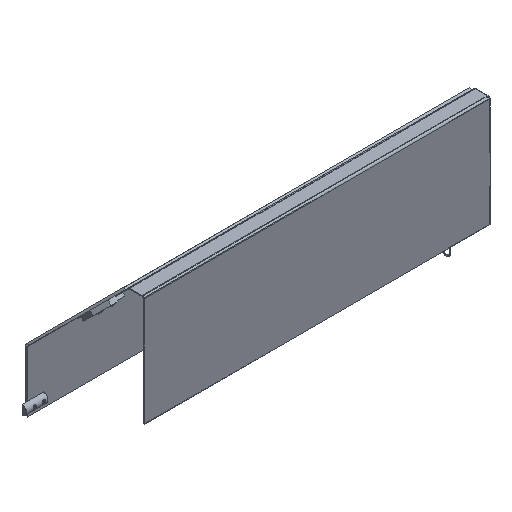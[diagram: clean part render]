
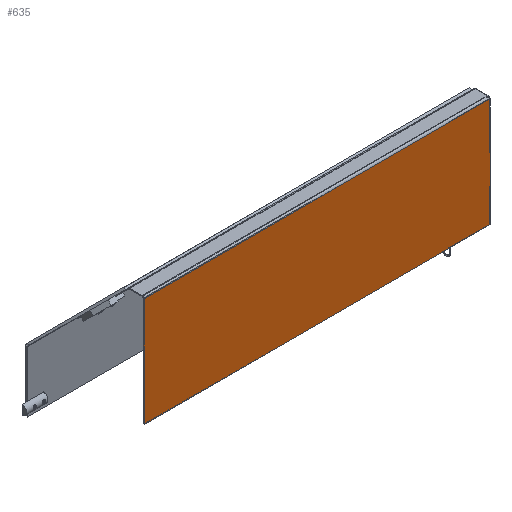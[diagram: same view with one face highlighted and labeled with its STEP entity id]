
A CAD part, isometric view. The second image highlights one B-rep face of the part: STEP entity #635.
In plain terms, the highlighted planar face has unit normal (0, -1, 0).
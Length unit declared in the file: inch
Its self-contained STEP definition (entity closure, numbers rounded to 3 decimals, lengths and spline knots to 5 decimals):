
#202=DIRECTION('',(0.,0.,1.));
#203=VECTOR('',#202,5.8922);
#204=CARTESIAN_POINT('',(9.355,-0.0478,-5.9522));
#205=LINE('',#204,#203);
#218=DIRECTION('',(0.,0.,1.));
#219=VECTOR('',#218,5.8922);
#220=CARTESIAN_POINT('',(-9.355,-0.0478,-5.9522));
#221=LINE('',#220,#219);
#222=DIRECTION('',(-1.,0.,0.));
#223=VECTOR('',#222,18.71);
#224=CARTESIAN_POINT('',(9.355,-0.0478,-5.9522));
#225=LINE('',#224,#223);
#230=DIRECTION('',(-1.,0.,0.));
#231=VECTOR('',#230,18.71);
#232=CARTESIAN_POINT('',(9.355,-0.0478,-0.06));
#233=LINE('',#232,#231);
#262=CARTESIAN_POINT('',(9.355,-0.0478,-5.9522));
#263=CARTESIAN_POINT('',(9.355,-0.0478,-0.06));
#264=VERTEX_POINT('',#262);
#265=VERTEX_POINT('',#263);
#272=CARTESIAN_POINT('',(-9.355,-0.0478,-5.9522));
#273=CARTESIAN_POINT('',(-9.355,-0.0478,-0.06));
#274=VERTEX_POINT('',#272);
#275=VERTEX_POINT('',#273);
#622=CARTESIAN_POINT('',(9.355,-0.0478,-5.9522));
#623=DIRECTION('',(0.,1.,0.));
#624=DIRECTION('',(0.,0.,1.));
#625=AXIS2_PLACEMENT_3D('',#622,#623,#624);
#626=PLANE('',#625);
#627=ORIENTED_EDGE('',*,*,#588,.F.);
#629=ORIENTED_EDGE('',*,*,#628,.T.);
#630=ORIENTED_EDGE('',*,*,#615,.T.);
#632=ORIENTED_EDGE('',*,*,#631,.F.);
#633=EDGE_LOOP('',(#627,#629,#630,#632));
#634=FACE_OUTER_BOUND('',#633,.F.);
#588=EDGE_CURVE('',#264,#265,#205,.T.);
#615=EDGE_CURVE('',#274,#275,#221,.T.);
#628=EDGE_CURVE('',#264,#274,#225,.T.);
#631=EDGE_CURVE('',#265,#275,#233,.T.);
#635=ADVANCED_FACE('',(#634),#626,.F.);
